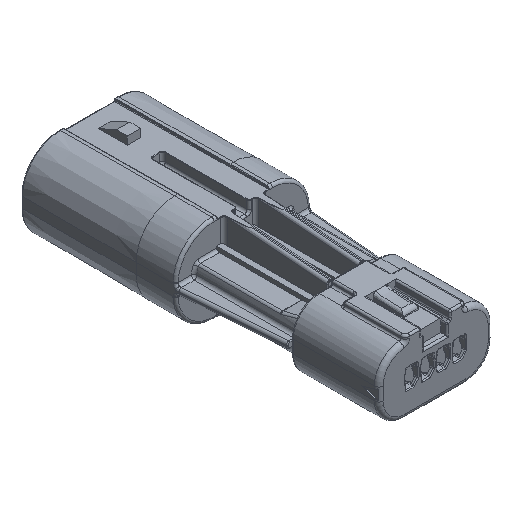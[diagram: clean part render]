
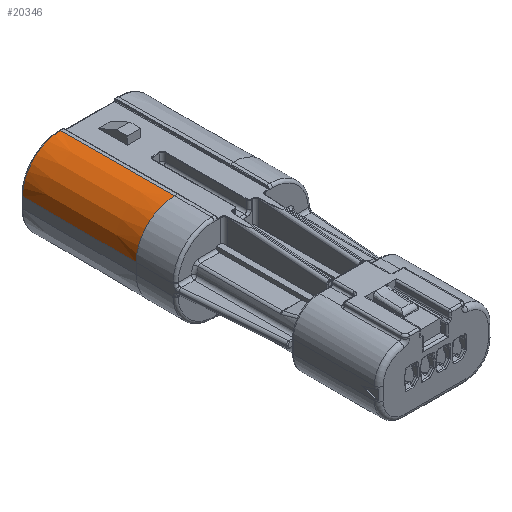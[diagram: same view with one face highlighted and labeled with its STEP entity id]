
A CAD part, isometric view. The second image highlights one B-rep face of the part: STEP entity #20346.
In plain terms, the highlighted conical face has half-angle 0.25 degrees and reference radius 4.322 mm.
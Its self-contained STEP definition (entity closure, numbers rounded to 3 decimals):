
#3619=DIRECTION('',(0.,1.,-0.004));
#3620=VECTOR('',#3619,12.901);
#3621=CARTESIAN_POINT('',(-16.973,-0.752,
0.361));
#3622=LINE('',#3621,#3620);
#3623=CARTESIAN_POINT('',(-16.973,-0.752,
-3.989));
#3624=DIRECTION('',(0.,1.,0.));
#3625=DIRECTION('',(-1.,0.,0.));
#3626=AXIS2_PLACEMENT_3D('',#3623,#3624,#3625);
#3628=DIRECTION('',(-0.004,-1.,0.));
#3629=VECTOR('',#3628,12.901);
#3630=CARTESIAN_POINT('',(-21.267,12.149,
-3.989));
#3631=LINE('',#3630,#3629);
#3637=CARTESIAN_POINT('',(-16.973,12.149,
-3.989));
#3638=DIRECTION('',(0.,1.,0.));
#3639=DIRECTION('',(-1.,0.,0.));
#3640=AXIS2_PLACEMENT_3D('',#3637,#3638,#3639);
#11127=CARTESIAN_POINT('',(-16.973,12.149,
0.304));
#11129=VERTEX_POINT('',#11127);
#11131=CARTESIAN_POINT('',(-16.973,-0.752,
0.361));
#11132=VERTEX_POINT('',#11131);
#11159=CARTESIAN_POINT('',(-21.323,-0.752,
-3.989));
#11160=VERTEX_POINT('',#11159);
#11164=CARTESIAN_POINT('',(-21.267,12.149,
-3.989));
#11165=VERTEX_POINT('',#11164);
#20334=CARTESIAN_POINT('',(-16.973,5.698,
-3.989));
#20335=DIRECTION('',(0.,-1.,0.));
#20336=DIRECTION('',(1.,0.,0.));
#20337=AXIS2_PLACEMENT_3D('',#20334,#20335,#20336);
#20338=CONICAL_SURFACE('',#20337,4.322,0.25);
#20340=ORIENTED_EDGE('',*,*,#20339,.T.);
#20341=ORIENTED_EDGE('',*,*,#14709,.F.);
#20342=ORIENTED_EDGE('',*,*,#14679,.F.);
#20343=ORIENTED_EDGE('',*,*,#20324,.F.);
#20344=EDGE_LOOP('',(#20340,#20341,#20342,#20343));
#20345=FACE_OUTER_BOUND('',#20344,.F.);
#20346=ADVANCED_FACE('',(#20345),#20338,.T.);
#3627=CIRCLE('',#3626,4.35);
#3641=CIRCLE('',#3640,4.294);
#14679=EDGE_CURVE('',#11160,#11132,#3627,.T.);
#14709=EDGE_CURVE('',#11132,#11129,#3622,.T.);
#20324=EDGE_CURVE('',#11165,#11160,#3631,.T.);
#20339=EDGE_CURVE('',#11165,#11129,#3641,.T.);
